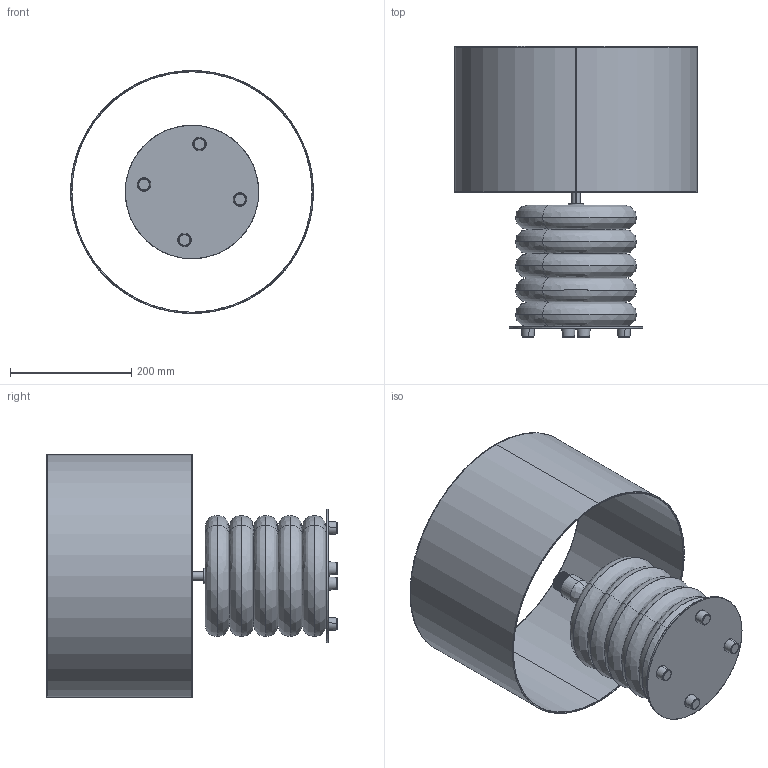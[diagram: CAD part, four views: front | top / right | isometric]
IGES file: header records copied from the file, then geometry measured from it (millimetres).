
Start section: SolidWorks IGES file using analytic representation for surfaces
Global section: file name: C:\Users\Agus\Desktop\Maider\NAC130_onut\ONUT_NAC130.IGS; native system: SolidWorks 2018; preprocessor: SolidWorks 2018; author: Agus; date: 231102.091035; units: millimetre
Bounding box: 400 x 479 x 400 mm (x, y, z)
Surface area: 1401796.4 mm2 (no closed solid volume)
Topology: 0 solids, 0 shells, 253 faces, 5759 edges, 5759 vertices
Faces by surface type: revolution 129, bspline 124
